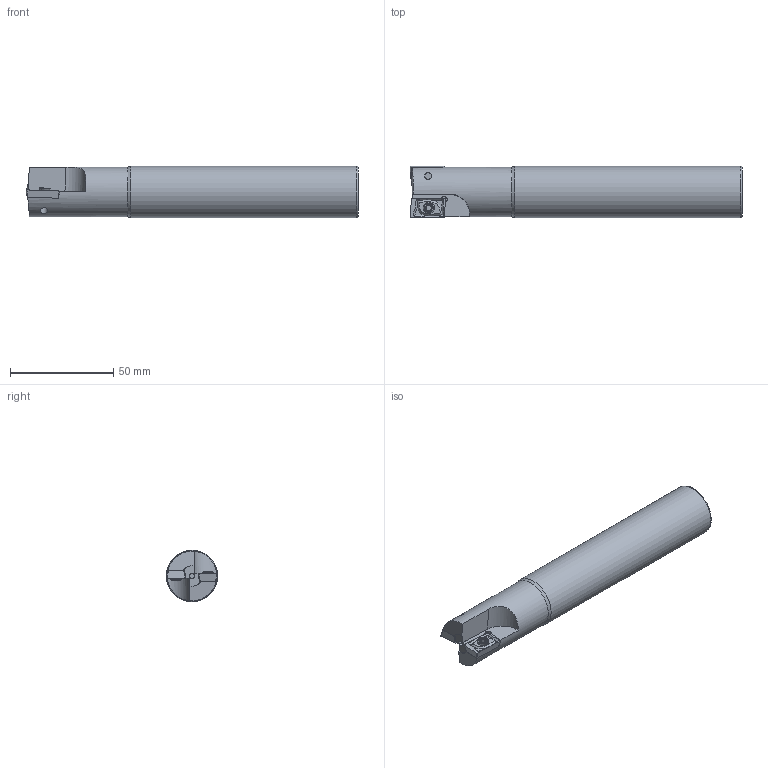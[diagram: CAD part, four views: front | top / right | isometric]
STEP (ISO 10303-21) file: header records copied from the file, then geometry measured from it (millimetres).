
FILE_DESCRIPTION(/* description */ (''),/* implementation_level */ '2;1');
FILE_NAME(/* name */ 'Z:\Проектный отдел\Даниил\Фрезы\BAP400R-25-160-C25-2T\BAP400R-25-160-C25-2T.stp',/* time_stamp */ '2023-10-16T16:43:34+03:00',/* author */ ('User'),/* organization */ (''),/* preprocessor_version */ 'ST-DEVELOPER v18',/* originating_system */ 'Autodesk Inventor 2020',/* authorisation */ '');
FILE_SCHEMA (('AUTOMOTIVE_DESIGN { 1 0 10303 214 3 1 1 }'));
Length unit declared in the file: millimetre
Products named in the file (4): Фреза сборка; BAP400R-25-160-C25-2T; Напайка; болт
Assembly tree (5 placements, depth 2):
  Фреза сборка
    BAP400R-25-160-C25-2T
    болт  x2
    Напайка  x2
Bounding box: 160.86 x 25 x 25 mm (x, y, z)
Volume: 71434.8 mm3; surface area: 14959 mm2
Topology: 5 solids, 5 shells, 157 faces, 398 edges, 260 vertices
Faces by surface type: cylinder 50, plane 43, bspline 32, cone 28, torus 4
Full cylindrical faces by diameter (mm): 2 x1, 2.5 x1, 3.3 x2, 3.4 x2, 4.2 x2, 5.5 x2, 24 x1, 25 x1
Entity records: 4241 total; most frequent: CARTESIAN_POINT 1773, ORIENTED_EDGE 490, DIRECTION 482, EDGE_CURVE 245, AXIS2_PLACEMENT_3D 199, VERTEX_POINT 162, EDGE_LOOP 107, FACE_OUTER_BOUND 95
